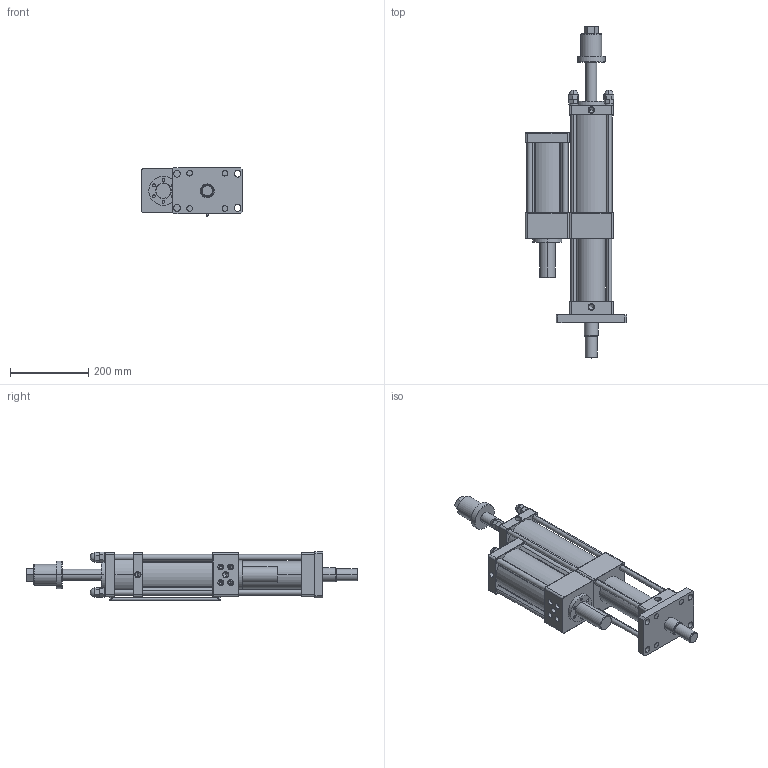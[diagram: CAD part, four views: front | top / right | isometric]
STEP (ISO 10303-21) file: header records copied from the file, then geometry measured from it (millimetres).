
FILE_DESCRIPTION (( 'STEP AP203' ), '1' );
FILE_NAME ('MPTD-80-100-10-5T.STEP', '2017-01-04T02:04:47', ( 'WIN' ), ( '' ), 'SwSTEP 2.0', 'SolidWorks 2014', '' );
FILE_SCHEMA (( 'CONFIG_CONTROL_DESIGN' ));
Length unit declared in the file: millimetre
Products named in the file (1): MPTD-80-100-10-5T
Bounding box: 258 x 847 x 124 mm (x, y, z)
Volume: 4542621.7 mm3; surface area: 839223.4 mm2
Topology: 5 solids, 13 shells, 566 faces, 1323 edges, 817 vertices
Faces by surface type: plane 303, cylinder 199, cone 56, torus 8
Entity records: 16004 total; most frequent: CARTESIAN_POINT 2957, DIRECTION 2821, ORIENTED_EDGE 2594, EDGE_CURVE 1297, AXIS2_PLACEMENT_3D 1049, VERTEX_POINT 817, VECTOR 723, LINE 723
